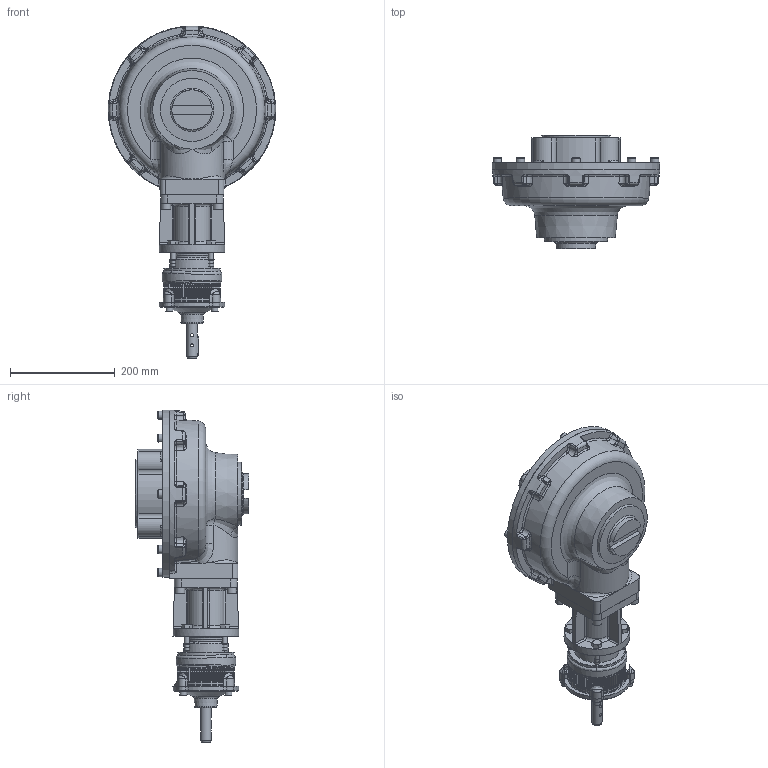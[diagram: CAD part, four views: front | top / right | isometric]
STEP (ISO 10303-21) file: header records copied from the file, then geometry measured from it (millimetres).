
FILE_DESCRIPTION( ( 'Unknown' ), '1' );
FILE_NAME( 'X:/CURRENT/PUB/Hob/HOB-2014/HOB-MPR/HOB-MPR-STP_FILES/PUB-HOB8MPR46-30.4-MAN-F16.stp', 'Unknown', ( 'Unknown' ), ( 'Unknown' ), 'PSStep 16.0.42', 'Unknown', ' ' );
FILE_SCHEMA( ( 'AUTOMOTIVE_DESIGN { 1 0 10303 214 1 1 1 1 }' ) );
Length unit declared in the file: millimetre
Products named in the file (32): trelleborg_trea00200-n7mm_b5c67wtxxcj74kwnwb2box077_01; 1; 2; 3; 4; 5; 6; 7; 8; 9; 10; 11; 12; 13; 14; 15; 16; 17; 18; 19; 20; 21; 22; 23; 24; 25; 26; 27; 28; 29; 30; 31
Bounding box: 319.78 x 216.15 x 633.5 mm (x, y, z)
Surface area: 1176931 mm2 (no closed solid volume)
Topology: 0 solids, 2767 shells, 2767 faces, 14413 edges, 14037 vertices
Faces by surface type: plane 985, cylinder 920, cone 454, torus 229, bspline 177, sphere 2
Full cylindrical faces by diameter (mm): 6 x2, 6.647 x8, 8 x4, 8.376 x8, 8.5 x12, 10 x12, 10.2 x4, 10.5 x12, 12 x4, 12.5 x4, 13.27 x4, 16 x8, 17.294 x8, 18 x4, 19 x1, 20 x4, 22.098 x1, 23 x1, 25 x1, 28 x2, 29 x1, 29.583 x1, 30 x3, 50.2 x2, 55.11 x1, 58 x1, 66.675 x1, 70.05 x1, 70.5 x1, 75 x1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
Entity records: 207174 total; most frequent: CARTESIAN_POINT 80454, DIRECTION 22618, VERTEX_POINT 13911, ORIENTED_EDGE 13884, EDGE_CURVE 13884, AXIS2_PLACEMENT_3D 8535, LINE 5548, VECTOR 5548
